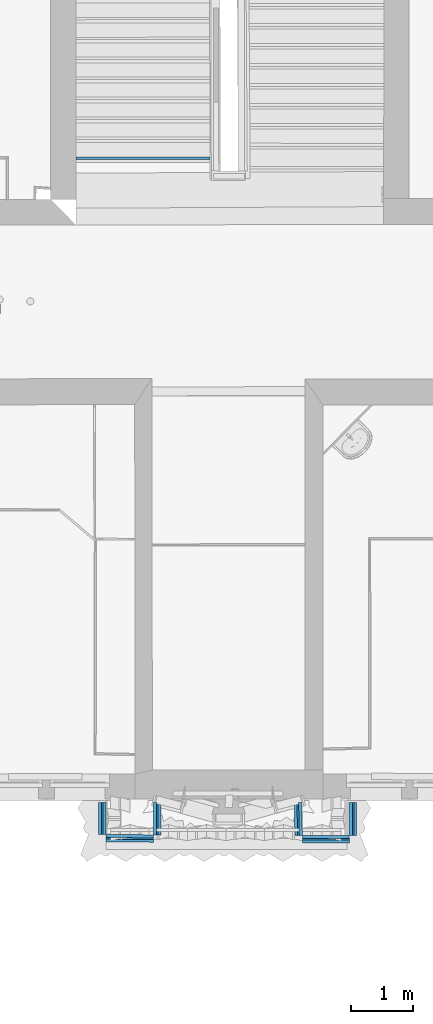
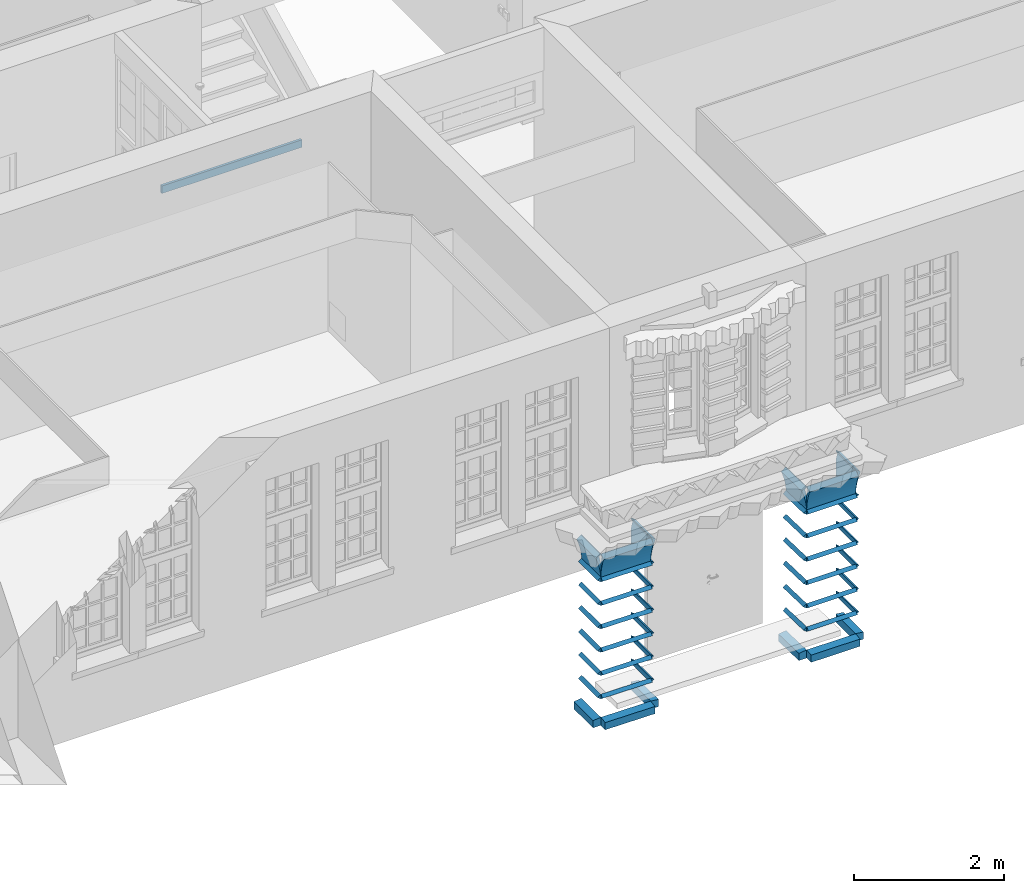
# One storey, part 54 of 158: 49 building element parts, 7 elements without a shape of their own.
"""IFC2X3 building model written with IfcOpenShell, lengths in metres."""

from ifc_helpers import new_model, entity, si_unit, converted_unit, derived_unit, money_unit, point, direction, frame, frame_2d, origin_with_axes, place, context, subcontext, project, spatial, polyline, circle_curve, parameter, trimmed, segment, composite_curve, outline, extrude, faceted_brep, material, type_object, element, aggregate, save


model = new_model("IFC2X3")

# Units and contexts
model_context = context("Model", 3, precision=1e-05, world=origin_with_axes(), true_north=direction((0.0, 1.0)))
body_context = subcontext(model_context, "Body", "Model", "MODEL_VIEW")
ifc_project = project(units=[si_unit("LENGTHUNIT", "METRE"), si_unit("AREAUNIT", "SQUARE_METRE"), si_unit("VOLUMEUNIT", "CUBIC_METRE"), converted_unit("PLANEANGLEUNIT", "DEGREE", entity("IfcPlaneAngleMeasure", 0.0174532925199), si_unit("PLANEANGLEUNIT", "RADIAN"), dimensions=[0, 0, 0, 0, 0, 0, 0]), money_unit("EUR"), converted_unit("TIMEUNIT", "Year", entity("IfcTimeMeasure", 31556926.0), si_unit("TIMEUNIT", "SECOND"), dimensions=[0, 0, 1, 0, 0, 0, 0]), si_unit("MASSUNIT", "GRAM", prefix="KILO"), si_unit("THERMODYNAMICTEMPERATUREUNIT", "DEGREE_CELSIUS"), si_unit("LUMINOUSINTENSITYUNIT", "LUMEN"), si_unit("ENERGYUNIT", "JOULE", prefix="MEGA"), derived_unit("THERMALCONDUCTANCEUNIT", [(si_unit("POWERUNIT", "WATT"), 1), (si_unit("LENGTHUNIT", "METRE"), -1), (si_unit("THERMODYNAMICTEMPERATUREUNIT", "KELVIN"), -1)]), derived_unit("SPECIFICHEATCAPACITYUNIT", [(si_unit("ENERGYUNIT", "JOULE"), 1), (si_unit("MASSUNIT", "GRAM", prefix="KILO"), -1), (si_unit("THERMODYNAMICTEMPERATUREUNIT", "KELVIN"), -1)]), derived_unit("MASSDENSITYUNIT", [(si_unit("MASSUNIT", "GRAM", prefix="KILO"), 1), (si_unit("VOLUMEUNIT", "CUBIC_METRE"), -1)])], contexts=[model_context])

# Site, building, storey
site_placement = place(None, origin_with_axes())
site = spatial("IfcSite", under=ifc_project, at=site_placement, Name="Gelände", CompositionType="ELEMENT")
building_placement = place(site_placement, origin_with_axes())
building = spatial("IfcBuilding", under=site, at=building_placement, Name="Gebäude", CompositionType="ELEMENT")
storey_placement = place(building_placement, origin_with_axes())
storey = spatial("IfcBuildingStorey", under=building, at=storey_placement, Name="ERDGESCHOSS", CompositionType="ELEMENT", Elevation=0.0)

# Stair, building element part
stair_placement = place(storey_placement, frame((-9.84157552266, 20.2697661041, -0.136081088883), z_axis=(0.0, 0.0, 1.0), x_axis=(0.999999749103, -0.000708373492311, 0.0)))
stair = element("IfcStair", 1, at=stair_placement, inside=storey, Name="Treppe-003", ShapeType="NOTDEFINED")
ifc_material_1 = material(Name="05_ALLGEMEIN - TRAGENDE BAUTEILE")
building_element_part_1_placement = place(stair_placement, origin_with_axes())
building_element_part_1 = element("IfcBuildingElementPart", 2, at=building_element_part_1_placement, material=ifc_material_1, Name="05_ALLGEMEIN - TRAGENDE BAUTEILE", context=body_context, shape_type="Brep", body=[
    faceted_brep([(2.15894805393, 0.0517325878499, 0.0), (2.15894805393, 0.0517325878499, 0.122173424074), (-4.01253561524e-05, 0.0499999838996, 0.122173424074), (-4.01253561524e-05, 0.0499999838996, 0.0), (2.15888565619, 0.0917325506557, 0.122173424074), (2.15888565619, 0.0917325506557, 0.0), (-7.2225641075e-05, 0.0899999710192, 0.122173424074), (-7.2225641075e-05, 0.0899999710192, 0.0)], [[[0, 1, 2, 3]], [[4, 1, 0, 5]], [[1, 4, 6, 2]], [[3, 2, 6, 7]], [[5, 0, 3, 7]], [[4, 5, 7, 6]]]),
])
aggregate(stair, [building_element_part_1])

# Wall, building element parts
wall_type = type_object("IfcWallType", Name="Fassade Sims Eingang 120 x 2804", PredefinedType="ELEMENTEDWALL")
wall_1_placement = place(storey_placement, frame((-9.35747245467, 9.93958420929, 0.4249755), z_axis=(0.0, 0.0, 1.0), x_axis=(0.0, -1.0, 0.0)))
wall_1 = element("IfcWall", 3, at=wall_1_placement, inside=storey, type_object=wall_type, Name="Wand-036", ObjectType="ELEMENTEDWALL")
ifc_material_2 = material(Name="01_ALLGEMEIN - BAUTEIL")
building_element_part_2_placement = place(wall_1_placement, origin_with_axes())
building_element_part_2 = element("IfcBuildingElementPart", 4, at=building_element_part_2_placement, material=ifc_material_2, Name="01_ALLGEMEIN - BAUTEIL", context=body_context, shape_type="SweptSolid", body=[
    extrude(outline(polyline([(0.0, -1.15369469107), (0.0, -1.22992), (0.0498799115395, -1.19180734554), (0.0, -1.15369469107)])), frame((0.0, 0.0, 0.0), z_axis=(-1.0, 0.0, 0.0), x_axis=(0.0, -1.0, 0.0)), (0.0, 0.0, -1.0), 0.515127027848),
])
building_element_part_3_placement = place(wall_1_placement, origin_with_axes())
building_element_part_3 = element("IfcBuildingElementPart", 5, at=building_element_part_3_placement, material=ifc_material_2, Name="01_ALLGEMEIN - BAUTEIL", context=body_context, shape_type="SweptSolid", body=[
    extrude(outline(polyline([(0.0, -0.773426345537), (0.0, -0.849651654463), (0.0498799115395, -0.811539), (0.0, -0.773426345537)])), frame((0.0, 0.0, 0.0), z_axis=(-1.0, 0.0, 0.0), x_axis=(0.0, -1.0, 0.0)), (0.0, 0.0, -1.0), 0.515127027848),
])
building_element_part_4_placement = place(wall_1_placement, origin_with_axes())
building_element_part_4 = element("IfcBuildingElementPart", 6, at=building_element_part_4_placement, material=ifc_material_2, Name="01_ALLGEMEIN - BAUTEIL", context=body_context, shape_type="SweptSolid", body=[
    extrude(outline(polyline([(0.0, -0.386252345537), (0.0, -0.462477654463), (0.0498799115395, -0.424365), (0.0, -0.386252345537)])), frame((0.0, 0.0, 0.0), z_axis=(-1.0, 0.0, 0.0), x_axis=(0.0, -1.0, 0.0)), (0.0, 0.0, -1.0), 0.515127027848),
])
building_element_part_5_placement = place(wall_1_placement, origin_with_axes())
building_element_part_5 = element("IfcBuildingElementPart", 7, at=building_element_part_5_placement, material=ifc_material_2, Name="01_ALLGEMEIN - BAUTEIL", context=body_context, shape_type="SweptSolid", body=[
    extrude(outline(polyline([(0.0, -1.53626234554), (0.0, -1.61248765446), (0.0498799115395, -1.574375), (0.0, -1.53626234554)])), frame((0.0, 0.0, 0.0), z_axis=(-1.0, 0.0, 0.0), x_axis=(0.0, -1.0, 0.0)), (0.0, 0.0, -1.0), 0.515127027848),
])
building_element_part_6_placement = place(wall_1_placement, origin_with_axes())
building_element_part_6 = element("IfcBuildingElementPart", 8, at=building_element_part_6_placement, material=ifc_material_2, Name="01_ALLGEMEIN - BAUTEIL", context=body_context, shape_type="SweptSolid", body=[
    extrude(outline(polyline([(0.0, -1.91574634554), (0.0, -1.99197165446), (0.0498799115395, -1.953859), (0.0, -1.91574634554)])), frame((0.0, 0.0, 0.0), z_axis=(-1.0, 0.0, 0.0), x_axis=(0.0, -1.0, 0.0)), (0.0, 0.0, -1.0), 0.515127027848),
])
building_element_part_7_placement = place(wall_1_placement, origin_with_axes())
building_element_part_7 = element("IfcBuildingElementPart", 9, at=building_element_part_7_placement, material=ifc_material_2, Name="01_ALLGEMEIN - BAUTEIL", context=body_context, shape_type="SweptSolid", body=[
    extrude(outline(polyline([(0.0, -2.29569934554), (0.0, -2.37192465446), (0.0498799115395, -2.333812), (0.0, -2.29569934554)])), frame((0.0, 0.0, 0.0), z_axis=(-1.0, 0.0, 0.0), x_axis=(0.0, -1.0, 0.0)), (0.0, 0.0, -1.0), 0.515127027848),
])
building_element_part_8_placement = place(wall_1_placement, origin_with_axes())
building_element_part_8 = element("IfcBuildingElementPart", 10, at=building_element_part_8_placement, material=ifc_material_2, Name="01_ALLGEMEIN - BAUTEIL", context=body_context, shape_type="SweptSolid", body=[
    extrude(outline(composite_curve([segment(polyline([(0.0276172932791, -0.0427155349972), (0.0, -0.162837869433), (0.0, -0.386252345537)]), True, "CONTINUOUS"), segment(trimmed(circle_curve(frame_2d((1.01793780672, -0.445343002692), x_axis=(-0.923388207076, 0.383867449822)), 1.01965145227), [point((0.0, -0.386252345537)), parameter(19.2511921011)], [point((0.076403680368, -0.053932)), parameter(0.0)], False, "CARTESIAN"), True, "CONTINUOUS"), segment(polyline([(0.076403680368, -0.053932), (0.00956273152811, 0.0), (0.0, 0.0), (0.0, -0.0204319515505), (0.0276172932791, -0.0427155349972)]), True, "CONTINUOUS")], self_intersect=False)), frame((0.0, 0.0, 0.0), z_axis=(-1.0, 0.0, 0.0), x_axis=(0.0, -1.0, 0.0)), (0.0, 0.0, -1.0), 0.515127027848),
])
building_element_part_9_placement = place(wall_1_placement, origin_with_axes())
building_element_part_9 = element("IfcBuildingElementPart", 11, at=building_element_part_9_placement, material=ifc_material_2, Name="01_ALLGEMEIN - BAUTEIL", context=body_context, shape_type="SweptSolid", body=[
    extrude(outline(polyline([(0.0, -2.67290315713), (0.0, -2.80439815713), (0.120212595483, -2.80439815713), (0.120212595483, -2.68659115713), (0.0, -2.67290315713)])), frame((0.0, 0.0, 0.0), z_axis=(-1.0, 0.0, 0.0), x_axis=(0.0, -1.0, 0.0)), (0.0, 0.0, -1.0), 0.515127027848),
])
aggregate(wall_1, [building_element_part_2, building_element_part_3, building_element_part_4, building_element_part_5, building_element_part_6, building_element_part_7, building_element_part_8, building_element_part_9])

wall_2_placement = place(storey_placement, frame((-9.35747245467, 9.42445718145, 0.4249755), z_axis=(0.0, 0.0, 1.0), x_axis=(0.999964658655, -0.00840722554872, 0.0)))
wall_2 = element("IfcWall", 12, at=wall_2_placement, inside=storey, type_object=wall_type, Name="Wand-036", ObjectType="ELEMENTEDWALL")
building_element_part_10_placement = place(wall_2_placement, origin_with_axes())
building_element_part_10 = element("IfcBuildingElementPart", 13, at=building_element_part_10_placement, material=ifc_material_2, Name="01_ALLGEMEIN - BAUTEIL", context=body_context, shape_type="SweptSolid", body=[
    extrude(outline(polyline([(0.0, -1.15369469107), (0.0, -1.22992), (0.0498799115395, -1.19180734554), (0.0, -1.15369469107)])), frame((0.0, 0.0, 0.0), z_axis=(-1.0, 0.0, 0.0), x_axis=(0.0, -1.0, 0.0)), (0.0, 0.0, -1.0), 0.765638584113),
])
building_element_part_11_placement = place(wall_2_placement, origin_with_axes())
building_element_part_11 = element("IfcBuildingElementPart", 14, at=building_element_part_11_placement, material=ifc_material_2, Name="01_ALLGEMEIN - BAUTEIL", context=body_context, shape_type="SweptSolid", body=[
    extrude(outline(polyline([(0.0, -0.773426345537), (0.0, -0.849651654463), (0.0498799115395, -0.811539), (0.0, -0.773426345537)])), frame((0.0, 0.0, 0.0), z_axis=(-1.0, 0.0, 0.0), x_axis=(0.0, -1.0, 0.0)), (0.0, 0.0, -1.0), 0.765638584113),
])
building_element_part_12_placement = place(wall_2_placement, origin_with_axes())
building_element_part_12 = element("IfcBuildingElementPart", 15, at=building_element_part_12_placement, material=ifc_material_2, Name="01_ALLGEMEIN - BAUTEIL", context=body_context, shape_type="SweptSolid", body=[
    extrude(outline(polyline([(0.0, -0.386252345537), (0.0, -0.462477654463), (0.0498799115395, -0.424365), (0.0, -0.386252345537)])), frame((0.0, 0.0, 0.0), z_axis=(-1.0, 0.0, 0.0), x_axis=(0.0, -1.0, 0.0)), (0.0, 0.0, -1.0), 0.765638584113),
])
building_element_part_13_placement = place(wall_2_placement, origin_with_axes())
building_element_part_13 = element("IfcBuildingElementPart", 16, at=building_element_part_13_placement, material=ifc_material_2, Name="01_ALLGEMEIN - BAUTEIL", context=body_context, shape_type="SweptSolid", body=[
    extrude(outline(polyline([(0.0, -1.53626234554), (0.0, -1.61248765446), (0.0498799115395, -1.574375), (0.0, -1.53626234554)])), frame((0.0, 0.0, 0.0), z_axis=(-1.0, 0.0, 0.0), x_axis=(0.0, -1.0, 0.0)), (0.0, 0.0, -1.0), 0.765638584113),
])
building_element_part_14_placement = place(wall_2_placement, origin_with_axes())
building_element_part_14 = element("IfcBuildingElementPart", 17, at=building_element_part_14_placement, material=ifc_material_2, Name="01_ALLGEMEIN - BAUTEIL", context=body_context, shape_type="SweptSolid", body=[
    extrude(outline(polyline([(0.0, -1.91574634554), (0.0, -1.99197165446), (0.0498799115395, -1.953859), (0.0, -1.91574634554)])), frame((0.0, 0.0, 0.0), z_axis=(-1.0, 0.0, 0.0), x_axis=(0.0, -1.0, 0.0)), (0.0, 0.0, -1.0), 0.765638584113),
])
building_element_part_15_placement = place(wall_2_placement, origin_with_axes())
building_element_part_15 = element("IfcBuildingElementPart", 18, at=building_element_part_15_placement, material=ifc_material_2, Name="01_ALLGEMEIN - BAUTEIL", context=body_context, shape_type="SweptSolid", body=[
    extrude(outline(polyline([(0.0, -2.29569934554), (0.0, -2.37192465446), (0.0498799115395, -2.333812), (0.0, -2.29569934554)])), frame((0.0, 0.0, 0.0), z_axis=(-1.0, 0.0, 0.0), x_axis=(0.0, -1.0, 0.0)), (0.0, 0.0, -1.0), 0.765638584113),
])
building_element_part_16_placement = place(wall_2_placement, origin_with_axes())
building_element_part_16 = element("IfcBuildingElementPart", 19, at=building_element_part_16_placement, material=ifc_material_2, Name="01_ALLGEMEIN - BAUTEIL", context=body_context, shape_type="SweptSolid", body=[
    extrude(outline(composite_curve([segment(polyline([(0.0276172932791, -0.0427155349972), (0.0, -0.162837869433), (0.0, -0.386252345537)]), True, "CONTINUOUS"), segment(trimmed(circle_curve(frame_2d((1.01793780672, -0.445343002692), x_axis=(-0.923388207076, 0.383867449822)), 1.01965145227), [point((0.0, -0.386252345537)), parameter(19.2511921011)], [point((0.076403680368, -0.053932)), parameter(0.0)], False, "CARTESIAN"), True, "CONTINUOUS"), segment(polyline([(0.076403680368, -0.053932), (0.00956273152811, 0.0), (0.0, 0.0), (0.0, -0.0204319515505), (0.0276172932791, -0.0427155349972)]), True, "CONTINUOUS")], self_intersect=False)), frame((0.0, 0.0, 0.0), z_axis=(-1.0, 0.0, 0.0), x_axis=(0.0, -1.0, 0.0)), (0.0, 0.0, -1.0), 0.765638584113),
])
building_element_part_17_placement = place(wall_2_placement, origin_with_axes())
building_element_part_17 = element("IfcBuildingElementPart", 20, at=building_element_part_17_placement, material=ifc_material_2, Name="01_ALLGEMEIN - BAUTEIL", context=body_context, shape_type="SweptSolid", body=[
    extrude(outline(polyline([(0.0, -2.67290315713), (0.0, -2.80439815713), (0.120212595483, -2.80439815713), (0.120212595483, -2.68659115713), (0.0, -2.67290315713)])), frame((0.0, 0.0, 0.0), z_axis=(-1.0, 0.0, 0.0), x_axis=(0.0, -1.0, 0.0)), (0.0, 0.0, -1.0), 0.765638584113),
])
aggregate(wall_2, [building_element_part_10, building_element_part_11, building_element_part_12, building_element_part_13, building_element_part_14, building_element_part_15, building_element_part_16, building_element_part_17])

wall_3_placement = place(storey_placement, frame((-8.59186092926, 9.41802028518, 0.4249755), z_axis=(0.0, 0.0, 1.0), x_axis=(-7.52624069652e-05, 0.999999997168, 0.0)))
wall_3 = element("IfcWall", 21, at=wall_3_placement, inside=storey, type_object=wall_type, Name="Wand-036", ObjectType="ELEMENTEDWALL")
building_element_part_18_placement = place(wall_3_placement, origin_with_axes())
building_element_part_18 = element("IfcBuildingElementPart", 22, at=building_element_part_18_placement, material=ifc_material_2, Name="01_ALLGEMEIN - BAUTEIL", context=body_context, shape_type="SweptSolid", body=[
    extrude(outline(polyline([(0.0, -1.15369469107), (0.0, -1.22992), (0.0498799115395, -1.19180734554), (0.0, -1.15369469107)])), frame((0.0, 0.0, 0.0), z_axis=(-1.0, 0.0, 0.0), x_axis=(0.0, -1.0, 0.0)), (0.0, 0.0, -1.0), 0.521644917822),
])
building_element_part_19_placement = place(wall_3_placement, origin_with_axes())
building_element_part_19 = element("IfcBuildingElementPart", 23, at=building_element_part_19_placement, material=ifc_material_2, Name="01_ALLGEMEIN - BAUTEIL", context=body_context, shape_type="SweptSolid", body=[
    extrude(outline(polyline([(0.0, -0.773426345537), (0.0, -0.849651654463), (0.0498799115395, -0.811539), (0.0, -0.773426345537)])), frame((0.0, 0.0, 0.0), z_axis=(-1.0, 0.0, 0.0), x_axis=(0.0, -1.0, 0.0)), (0.0, 0.0, -1.0), 0.521644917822),
])
building_element_part_20_placement = place(wall_3_placement, origin_with_axes())
building_element_part_20 = element("IfcBuildingElementPart", 24, at=building_element_part_20_placement, material=ifc_material_2, Name="01_ALLGEMEIN - BAUTEIL", context=body_context, shape_type="SweptSolid", body=[
    extrude(outline(polyline([(0.0, -0.386252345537), (0.0, -0.462477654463), (0.0498799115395, -0.424365), (0.0, -0.386252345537)])), frame((0.0, 0.0, 0.0), z_axis=(-1.0, 0.0, 0.0), x_axis=(0.0, -1.0, 0.0)), (0.0, 0.0, -1.0), 0.521644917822),
])
building_element_part_21_placement = place(wall_3_placement, origin_with_axes())
building_element_part_21 = element("IfcBuildingElementPart", 25, at=building_element_part_21_placement, material=ifc_material_2, Name="01_ALLGEMEIN - BAUTEIL", context=body_context, shape_type="SweptSolid", body=[
    extrude(outline(polyline([(0.0, -1.53626234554), (0.0, -1.61248765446), (0.0498799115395, -1.574375), (0.0, -1.53626234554)])), frame((0.0, 0.0, 0.0), z_axis=(-1.0, 0.0, 0.0), x_axis=(0.0, -1.0, 0.0)), (0.0, 0.0, -1.0), 0.521644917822),
])
building_element_part_22_placement = place(wall_3_placement, origin_with_axes())
building_element_part_22 = element("IfcBuildingElementPart", 26, at=building_element_part_22_placement, material=ifc_material_2, Name="01_ALLGEMEIN - BAUTEIL", context=body_context, shape_type="SweptSolid", body=[
    extrude(outline(polyline([(0.0, -1.91574634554), (0.0, -1.99197165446), (0.0498799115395, -1.953859), (0.0, -1.91574634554)])), frame((0.0, 0.0, 0.0), z_axis=(-1.0, 0.0, 0.0), x_axis=(0.0, -1.0, 0.0)), (0.0, 0.0, -1.0), 0.521644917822),
])
building_element_part_23_placement = place(wall_3_placement, origin_with_axes())
building_element_part_23 = element("IfcBuildingElementPart", 27, at=building_element_part_23_placement, material=ifc_material_2, Name="01_ALLGEMEIN - BAUTEIL", context=body_context, shape_type="SweptSolid", body=[
    extrude(outline(polyline([(0.0, -2.29569934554), (0.0, -2.37192465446), (0.0498799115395, -2.333812), (0.0, -2.29569934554)])), frame((0.0, 0.0, 0.0), z_axis=(-1.0, 0.0, 0.0), x_axis=(0.0, -1.0, 0.0)), (0.0, 0.0, -1.0), 0.521644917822),
])
building_element_part_24_placement = place(wall_3_placement, origin_with_axes())
building_element_part_24 = element("IfcBuildingElementPart", 28, at=building_element_part_24_placement, material=ifc_material_2, Name="01_ALLGEMEIN - BAUTEIL", context=body_context, shape_type="SweptSolid", body=[
    extrude(outline(composite_curve([segment(polyline([(0.0276172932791, -0.0427155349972), (0.0, -0.162837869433), (0.0, -0.386252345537)]), True, "CONTINUOUS"), segment(trimmed(circle_curve(frame_2d((1.01793780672, -0.445343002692), x_axis=(-0.923388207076, 0.383867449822)), 1.01965145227), [point((0.0, -0.386252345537)), parameter(19.2511921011)], [point((0.076403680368, -0.053932)), parameter(0.0)], False, "CARTESIAN"), True, "CONTINUOUS"), segment(polyline([(0.076403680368, -0.053932), (0.00956273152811, 0.0), (0.0, 0.0), (0.0, -0.0204319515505), (0.0276172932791, -0.0427155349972)]), True, "CONTINUOUS")], self_intersect=False)), frame((0.0, 0.0, 0.0), z_axis=(-1.0, 0.0, 0.0), x_axis=(0.0, -1.0, 0.0)), (0.0, 0.0, -1.0), 0.521644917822),
])
building_element_part_25_placement = place(wall_3_placement, origin_with_axes())
building_element_part_25 = element("IfcBuildingElementPart", 29, at=building_element_part_25_placement, material=ifc_material_2, Name="01_ALLGEMEIN - BAUTEIL", context=body_context, shape_type="SweptSolid", body=[
    extrude(outline(polyline([(0.0, -2.67290315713), (0.0, -2.80439815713), (0.120212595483, -2.80439815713), (0.120212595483, -2.68659115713), (0.0, -2.67290315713)])), frame((0.0, 0.0, 0.0), z_axis=(-1.0, 0.0, 0.0), x_axis=(0.0, -1.0, 0.0)), (0.0, 0.0, -1.0), 0.521644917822),
])
aggregate(wall_3, [building_element_part_18, building_element_part_19, building_element_part_20, building_element_part_21, building_element_part_22, building_element_part_23, building_element_part_24, building_element_part_25])

wall_4_placement = place(storey_placement, frame((-6.19998406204, 9.93984522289, 0.4249755), z_axis=(0.0, 0.0, 1.0), x_axis=(0.0219314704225, -0.999759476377, 0.0)))
wall_4 = element("IfcWall", 30, at=wall_4_placement, inside=storey, type_object=wall_type, Name="Wand-037", ObjectType="ELEMENTEDWALL")
building_element_part_26_placement = place(wall_4_placement, origin_with_axes())
building_element_part_26 = element("IfcBuildingElementPart", 31, at=building_element_part_26_placement, material=ifc_material_2, Name="01_ALLGEMEIN - BAUTEIL", context=body_context, shape_type="SweptSolid", body=[
    extrude(outline(polyline([(0.0, -1.15369469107), (0.0, -1.22992), (0.0498799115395, -1.19180734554), (0.0, -1.15369469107)])), frame((0.0, 0.0, 0.0), z_axis=(-1.0, 0.0, 0.0), x_axis=(0.0, -1.0, 0.0)), (0.0, 0.0, -1.0), 0.531233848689),
])
building_element_part_27_placement = place(wall_4_placement, origin_with_axes())
building_element_part_27 = element("IfcBuildingElementPart", 32, at=building_element_part_27_placement, material=ifc_material_2, Name="01_ALLGEMEIN - BAUTEIL", context=body_context, shape_type="SweptSolid", body=[
    extrude(outline(polyline([(0.0, -0.773426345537), (0.0, -0.849651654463), (0.0498799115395, -0.811539), (0.0, -0.773426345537)])), frame((0.0, 0.0, 0.0), z_axis=(-1.0, 0.0, 0.0), x_axis=(0.0, -1.0, 0.0)), (0.0, 0.0, -1.0), 0.531233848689),
])
building_element_part_28_placement = place(wall_4_placement, origin_with_axes())
building_element_part_28 = element("IfcBuildingElementPart", 33, at=building_element_part_28_placement, material=ifc_material_2, Name="01_ALLGEMEIN - BAUTEIL", context=body_context, shape_type="SweptSolid", body=[
    extrude(outline(polyline([(0.0, -0.386252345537), (0.0, -0.462477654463), (0.0498799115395, -0.424365), (0.0, -0.386252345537)])), frame((0.0, 0.0, 0.0), z_axis=(-1.0, 0.0, 0.0), x_axis=(0.0, -1.0, 0.0)), (0.0, 0.0, -1.0), 0.531233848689),
])
building_element_part_29_placement = place(wall_4_placement, origin_with_axes())
building_element_part_29 = element("IfcBuildingElementPart", 34, at=building_element_part_29_placement, material=ifc_material_2, Name="01_ALLGEMEIN - BAUTEIL", context=body_context, shape_type="SweptSolid", body=[
    extrude(outline(polyline([(0.0, -1.53626234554), (0.0, -1.61248765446), (0.0498799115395, -1.574375), (0.0, -1.53626234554)])), frame((0.0, 0.0, 0.0), z_axis=(-1.0, 0.0, 0.0), x_axis=(0.0, -1.0, 0.0)), (0.0, 0.0, -1.0), 0.531233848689),
])
building_element_part_30_placement = place(wall_4_placement, origin_with_axes())
building_element_part_30 = element("IfcBuildingElementPart", 35, at=building_element_part_30_placement, material=ifc_material_2, Name="01_ALLGEMEIN - BAUTEIL", context=body_context, shape_type="SweptSolid", body=[
    extrude(outline(polyline([(0.0, -1.91574634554), (0.0, -1.99197165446), (0.0498799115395, -1.953859), (0.0, -1.91574634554)])), frame((0.0, 0.0, 0.0), z_axis=(-1.0, 0.0, 0.0), x_axis=(0.0, -1.0, 0.0)), (0.0, 0.0, -1.0), 0.531233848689),
])
building_element_part_31_placement = place(wall_4_placement, origin_with_axes())
building_element_part_31 = element("IfcBuildingElementPart", 36, at=building_element_part_31_placement, material=ifc_material_2, Name="01_ALLGEMEIN - BAUTEIL", context=body_context, shape_type="SweptSolid", body=[
    extrude(outline(polyline([(0.0, -2.29569934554), (0.0, -2.37192465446), (0.0498799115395, -2.333812), (0.0, -2.29569934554)])), frame((0.0, 0.0, 0.0), z_axis=(-1.0, 0.0, 0.0), x_axis=(0.0, -1.0, 0.0)), (0.0, 0.0, -1.0), 0.531233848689),
])
building_element_part_32_placement = place(wall_4_placement, origin_with_axes())
building_element_part_32 = element("IfcBuildingElementPart", 37, at=building_element_part_32_placement, material=ifc_material_2, Name="01_ALLGEMEIN - BAUTEIL", context=body_context, shape_type="SweptSolid", body=[
    extrude(outline(composite_curve([segment(polyline([(0.0276172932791, -0.0427155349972), (0.0, -0.162837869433), (0.0, -0.386252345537)]), True, "CONTINUOUS"), segment(trimmed(circle_curve(frame_2d((1.01793780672, -0.445343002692), x_axis=(-0.923388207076, 0.383867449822)), 1.01965145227), [point((0.0, -0.386252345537)), parameter(19.2511921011)], [point((0.076403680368, -0.053932)), parameter(0.0)], False, "CARTESIAN"), True, "CONTINUOUS"), segment(polyline([(0.076403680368, -0.053932), (0.00956273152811, 0.0), (0.0, 0.0), (0.0, -0.0204319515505), (0.0276172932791, -0.0427155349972)]), True, "CONTINUOUS")], self_intersect=False)), frame((0.0, 0.0, 0.0), z_axis=(-1.0, 0.0, 0.0), x_axis=(0.0, -1.0, 0.0)), (0.0, 0.0, -1.0), 0.531233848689),
])
building_element_part_33_placement = place(wall_4_placement, origin_with_axes())
building_element_part_33 = element("IfcBuildingElementPart", 38, at=building_element_part_33_placement, material=ifc_material_2, Name="01_ALLGEMEIN - BAUTEIL", context=body_context, shape_type="SweptSolid", body=[
    extrude(outline(polyline([(0.0, -2.67290315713), (0.0, -2.80439815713), (0.120212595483, -2.80439815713), (0.120212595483, -2.68659115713), (0.0, -2.67290315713)])), frame((0.0, 0.0, 0.0), z_axis=(-1.0, 0.0, 0.0), x_axis=(0.0, -1.0, 0.0)), (0.0, 0.0, -1.0), 0.531233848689),
])
aggregate(wall_4, [building_element_part_26, building_element_part_27, building_element_part_28, building_element_part_29, building_element_part_30, building_element_part_31, building_element_part_32, building_element_part_33])

wall_5_placement = place(storey_placement, frame((-6.1883333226, 9.40873914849, 0.4249755), z_axis=(0.0, 0.0, 1.0), x_axis=(0.999999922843, 0.000392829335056, 0.0)))
wall_5 = element("IfcWall", 39, at=wall_5_placement, inside=storey, type_object=wall_type, Name="Wand-038", ObjectType="ELEMENTEDWALL")
building_element_part_34_placement = place(wall_5_placement, origin_with_axes())
building_element_part_34 = element("IfcBuildingElementPart", 40, at=building_element_part_34_placement, material=ifc_material_2, Name="01_ALLGEMEIN - BAUTEIL", context=body_context, shape_type="SweptSolid", body=[
    extrude(outline(polyline([(0.0, -1.15369469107), (0.0, -1.22992), (0.0498799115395, -1.19180734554), (0.0, -1.15369469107)])), frame((0.0, 0.0, 0.0), z_axis=(-1.0, 0.0, 0.0), x_axis=(0.0, -1.0, 0.0)), (0.0, 0.0, -1.0), 0.756720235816),
])
building_element_part_35_placement = place(wall_5_placement, origin_with_axes())
building_element_part_35 = element("IfcBuildingElementPart", 41, at=building_element_part_35_placement, material=ifc_material_2, Name="01_ALLGEMEIN - BAUTEIL", context=body_context, shape_type="SweptSolid", body=[
    extrude(outline(polyline([(0.0, -0.773426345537), (0.0, -0.849651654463), (0.0498799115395, -0.811539), (0.0, -0.773426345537)])), frame((0.0, 0.0, 0.0), z_axis=(-1.0, 0.0, 0.0), x_axis=(0.0, -1.0, 0.0)), (0.0, 0.0, -1.0), 0.756720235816),
])
building_element_part_36_placement = place(wall_5_placement, origin_with_axes())
building_element_part_36 = element("IfcBuildingElementPart", 42, at=building_element_part_36_placement, material=ifc_material_2, Name="01_ALLGEMEIN - BAUTEIL", context=body_context, shape_type="SweptSolid", body=[
    extrude(outline(polyline([(0.0, -0.386252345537), (0.0, -0.462477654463), (0.0498799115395, -0.424365), (0.0, -0.386252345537)])), frame((0.0, 0.0, 0.0), z_axis=(-1.0, 0.0, 0.0), x_axis=(0.0, -1.0, 0.0)), (0.0, 0.0, -1.0), 0.756720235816),
])
building_element_part_37_placement = place(wall_5_placement, origin_with_axes())
building_element_part_37 = element("IfcBuildingElementPart", 43, at=building_element_part_37_placement, material=ifc_material_2, Name="01_ALLGEMEIN - BAUTEIL", context=body_context, shape_type="SweptSolid", body=[
    extrude(outline(polyline([(0.0, -1.53626234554), (0.0, -1.61248765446), (0.0498799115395, -1.574375), (0.0, -1.53626234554)])), frame((0.0, 0.0, 0.0), z_axis=(-1.0, 0.0, 0.0), x_axis=(0.0, -1.0, 0.0)), (0.0, 0.0, -1.0), 0.756720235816),
])
building_element_part_38_placement = place(wall_5_placement, origin_with_axes())
building_element_part_38 = element("IfcBuildingElementPart", 44, at=building_element_part_38_placement, material=ifc_material_2, Name="01_ALLGEMEIN - BAUTEIL", context=body_context, shape_type="SweptSolid", body=[
    extrude(outline(polyline([(0.0, -1.91574634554), (0.0, -1.99197165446), (0.0498799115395, -1.953859), (0.0, -1.91574634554)])), frame((0.0, 0.0, 0.0), z_axis=(-1.0, 0.0, 0.0), x_axis=(0.0, -1.0, 0.0)), (0.0, 0.0, -1.0), 0.756720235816),
])
building_element_part_39_placement = place(wall_5_placement, origin_with_axes())
building_element_part_39 = element("IfcBuildingElementPart", 45, at=building_element_part_39_placement, material=ifc_material_2, Name="01_ALLGEMEIN - BAUTEIL", context=body_context, shape_type="SweptSolid", body=[
    extrude(outline(polyline([(0.0, -2.29569934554), (0.0, -2.37192465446), (0.0498799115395, -2.333812), (0.0, -2.29569934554)])), frame((0.0, 0.0, 0.0), z_axis=(-1.0, 0.0, 0.0), x_axis=(0.0, -1.0, 0.0)), (0.0, 0.0, -1.0), 0.756720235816),
])
building_element_part_40_placement = place(wall_5_placement, origin_with_axes())
building_element_part_40 = element("IfcBuildingElementPart", 46, at=building_element_part_40_placement, material=ifc_material_2, Name="01_ALLGEMEIN - BAUTEIL", context=body_context, shape_type="SweptSolid", body=[
    extrude(outline(composite_curve([segment(polyline([(0.0276172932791, -0.0427155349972), (0.0, -0.162837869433), (0.0, -0.386252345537)]), True, "CONTINUOUS"), segment(trimmed(circle_curve(frame_2d((1.01793780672, -0.445343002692), x_axis=(-0.923388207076, 0.383867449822)), 1.01965145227), [point((0.0, -0.386252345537)), parameter(19.2511921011)], [point((0.076403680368, -0.053932)), parameter(0.0)], False, "CARTESIAN"), True, "CONTINUOUS"), segment(polyline([(0.076403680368, -0.053932), (0.00956273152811, 0.0), (0.0, 0.0), (0.0, -0.0204319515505), (0.0276172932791, -0.0427155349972)]), True, "CONTINUOUS")], self_intersect=False)), frame((0.0, 0.0, 0.0), z_axis=(-1.0, 0.0, 0.0), x_axis=(0.0, -1.0, 0.0)), (0.0, 0.0, -1.0), 0.756720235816),
])
building_element_part_41_placement = place(wall_5_placement, origin_with_axes())
building_element_part_41 = element("IfcBuildingElementPart", 47, at=building_element_part_41_placement, material=ifc_material_2, Name="01_ALLGEMEIN - BAUTEIL", context=body_context, shape_type="SweptSolid", body=[
    extrude(outline(polyline([(0.0, -2.67290315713), (0.0, -2.80439815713), (0.120212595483, -2.80439815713), (0.120212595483, -2.68659115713), (0.0, -2.67290315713)])), frame((0.0, 0.0, 0.0), z_axis=(-1.0, 0.0, 0.0), x_axis=(0.0, -1.0, 0.0)), (0.0, 0.0, -1.0), 0.756720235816),
])
aggregate(wall_5, [building_element_part_34, building_element_part_35, building_element_part_36, building_element_part_37, building_element_part_38, building_element_part_39, building_element_part_40, building_element_part_41])

wall_6_placement = place(storey_placement, frame((-5.43161314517, 9.4090364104, 0.4249755), z_axis=(0.0, 0.0, 1.0), x_axis=(-7.52624069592e-05, 0.999999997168, 0.0)))
wall_6 = element("IfcWall", 48, at=wall_6_placement, inside=storey, type_object=wall_type, Name="Wand-039", ObjectType="ELEMENTEDWALL")
building_element_part_42_placement = place(wall_6_placement, origin_with_axes())
building_element_part_42 = element("IfcBuildingElementPart", 49, at=building_element_part_42_placement, material=ifc_material_2, Name="01_ALLGEMEIN - BAUTEIL", context=body_context, shape_type="SweptSolid", body=[
    extrude(outline(polyline([(0.0, -1.15369469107), (0.0, -1.22992), (0.0498799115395, -1.19180734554), (0.0, -1.15369469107)])), frame((0.0, 0.0, 0.0), z_axis=(-1.0, 0.0, 0.0), x_axis=(0.0, -1.0, 0.0)), (0.0, 0.0, -1.0), 0.530866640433),
])
building_element_part_43_placement = place(wall_6_placement, origin_with_axes())
building_element_part_43 = element("IfcBuildingElementPart", 50, at=building_element_part_43_placement, material=ifc_material_2, Name="01_ALLGEMEIN - BAUTEIL", context=body_context, shape_type="SweptSolid", body=[
    extrude(outline(polyline([(0.0, -0.773426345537), (0.0, -0.849651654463), (0.0498799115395, -0.811539), (0.0, -0.773426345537)])), frame((0.0, 0.0, 0.0), z_axis=(-1.0, 0.0, 0.0), x_axis=(0.0, -1.0, 0.0)), (0.0, 0.0, -1.0), 0.530866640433),
])
building_element_part_44_placement = place(wall_6_placement, origin_with_axes())
building_element_part_44 = element("IfcBuildingElementPart", 51, at=building_element_part_44_placement, material=ifc_material_2, Name="01_ALLGEMEIN - BAUTEIL", context=body_context, shape_type="SweptSolid", body=[
    extrude(outline(polyline([(0.0, -0.386252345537), (0.0, -0.462477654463), (0.0498799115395, -0.424365), (0.0, -0.386252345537)])), frame((0.0, 0.0, 0.0), z_axis=(-1.0, 0.0, 0.0), x_axis=(0.0, -1.0, 0.0)), (0.0, 0.0, -1.0), 0.530866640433),
])
building_element_part_45_placement = place(wall_6_placement, origin_with_axes())
building_element_part_45 = element("IfcBuildingElementPart", 52, at=building_element_part_45_placement, material=ifc_material_2, Name="01_ALLGEMEIN - BAUTEIL", context=body_context, shape_type="SweptSolid", body=[
    extrude(outline(polyline([(0.0, -1.53626234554), (0.0, -1.61248765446), (0.0498799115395, -1.574375), (0.0, -1.53626234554)])), frame((0.0, 0.0, 0.0), z_axis=(-1.0, 0.0, 0.0), x_axis=(0.0, -1.0, 0.0)), (0.0, 0.0, -1.0), 0.530866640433),
])
building_element_part_46_placement = place(wall_6_placement, origin_with_axes())
building_element_part_46 = element("IfcBuildingElementPart", 53, at=building_element_part_46_placement, material=ifc_material_2, Name="01_ALLGEMEIN - BAUTEIL", context=body_context, shape_type="SweptSolid", body=[
    extrude(outline(polyline([(0.0, -1.91574634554), (0.0, -1.99197165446), (0.0498799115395, -1.953859), (0.0, -1.91574634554)])), frame((0.0, 0.0, 0.0), z_axis=(-1.0, 0.0, 0.0), x_axis=(0.0, -1.0, 0.0)), (0.0, 0.0, -1.0), 0.530866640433),
])
building_element_part_47_placement = place(wall_6_placement, origin_with_axes())
building_element_part_47 = element("IfcBuildingElementPart", 54, at=building_element_part_47_placement, material=ifc_material_2, Name="01_ALLGEMEIN - BAUTEIL", context=body_context, shape_type="SweptSolid", body=[
    extrude(outline(polyline([(0.0, -2.29569934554), (0.0, -2.37192465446), (0.0498799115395, -2.333812), (0.0, -2.29569934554)])), frame((0.0, 0.0, 0.0), z_axis=(-1.0, 0.0, 0.0), x_axis=(0.0, -1.0, 0.0)), (0.0, 0.0, -1.0), 0.530866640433),
])
building_element_part_48_placement = place(wall_6_placement, origin_with_axes())
building_element_part_48 = element("IfcBuildingElementPart", 55, at=building_element_part_48_placement, material=ifc_material_2, Name="01_ALLGEMEIN - BAUTEIL", context=body_context, shape_type="SweptSolid", body=[
    extrude(outline(composite_curve([segment(polyline([(0.0276172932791, -0.0427155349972), (0.0, -0.162837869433), (0.0, -0.386252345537)]), True, "CONTINUOUS"), segment(trimmed(circle_curve(frame_2d((1.01793780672, -0.445343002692), x_axis=(-0.923388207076, 0.383867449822)), 1.01965145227), [point((0.0, -0.386252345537)), parameter(19.2511921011)], [point((0.076403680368, -0.053932)), parameter(0.0)], False, "CARTESIAN"), True, "CONTINUOUS"), segment(polyline([(0.076403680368, -0.053932), (0.00956273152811, 0.0), (0.0, 0.0), (0.0, -0.0204319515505), (0.0276172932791, -0.0427155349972)]), True, "CONTINUOUS")], self_intersect=False)), frame((0.0, 0.0, 0.0), z_axis=(-1.0, 0.0, 0.0), x_axis=(0.0, -1.0, 0.0)), (0.0, 0.0, -1.0), 0.530866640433),
])
building_element_part_49_placement = place(wall_6_placement, origin_with_axes())
building_element_part_49 = element("IfcBuildingElementPart", 56, at=building_element_part_49_placement, material=ifc_material_2, Name="01_ALLGEMEIN - BAUTEIL", context=body_context, shape_type="SweptSolid", body=[
    extrude(outline(polyline([(0.0, -2.67290315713), (0.0, -2.80439815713), (0.120212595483, -2.80439815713), (0.120212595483, -2.68659115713), (0.0, -2.67290315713)])), frame((0.0, 0.0, 0.0), z_axis=(-1.0, 0.0, 0.0), x_axis=(0.0, -1.0, 0.0)), (0.0, 0.0, -1.0), 0.530866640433),
])
aggregate(wall_6, [building_element_part_42, building_element_part_43, building_element_part_44, building_element_part_45, building_element_part_46, building_element_part_47, building_element_part_48, building_element_part_49])

save(model, "model.ifc")
